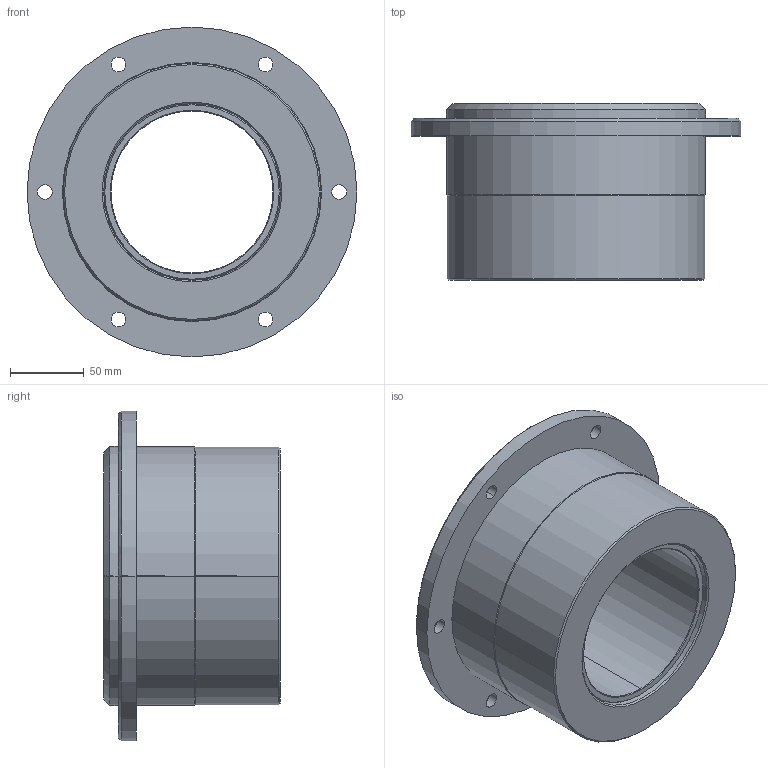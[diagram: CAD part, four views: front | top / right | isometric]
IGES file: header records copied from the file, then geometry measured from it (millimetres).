
Start section: 3D InterOp IGES (Version 20 0 1), Spatial Corp. Copyright (c) 1999-2007.
Global section: file name: 10.13.11.igs; native system: Spatial Corp.; preprocessor: 3D InterOp GENERIC/IGES 3.0; author: Noname; organization: Noname; date: 20111110.165308; units: metre
Bounding box: 224 x 120 x 224 mm (x, y, z)
Surface area: 261901.4 mm2 (no closed solid volume)
Topology: 0 solids, 0 shells, 88 faces, 1953 edges, 3458 vertices
Faces by surface type: revolution 74, extrusion 14
